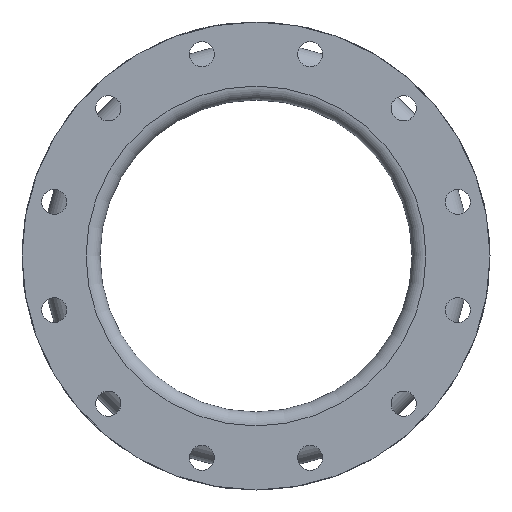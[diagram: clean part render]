
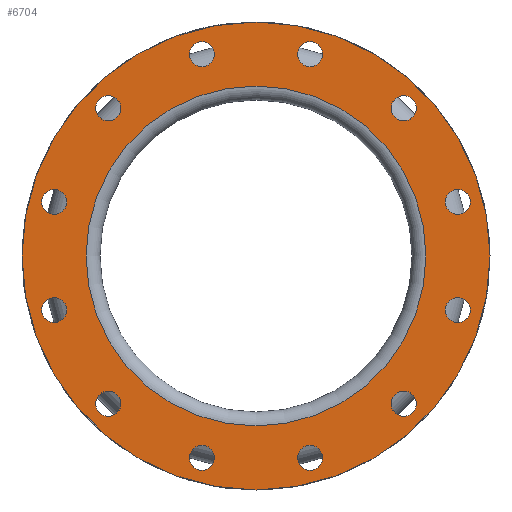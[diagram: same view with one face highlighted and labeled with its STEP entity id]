
A CAD part, left-side view. The second image highlights one B-rep face of the part: STEP entity #6704.
In plain terms, the highlighted planar face has unit normal (-1, 0, 0).
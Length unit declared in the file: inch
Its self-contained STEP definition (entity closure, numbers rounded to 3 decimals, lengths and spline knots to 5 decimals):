
#108=FACE_BOUND('',#1124,.T.);
#109=FACE_BOUND('',#1125,.T.);
#110=FACE_BOUND('',#1126,.T.);
#111=FACE_BOUND('',#1127,.T.);
#112=FACE_BOUND('',#1128,.T.);
#113=FACE_BOUND('',#1129,.T.);
#114=FACE_BOUND('',#1130,.T.);
#115=FACE_BOUND('',#1131,.T.);
#116=FACE_BOUND('',#1132,.T.);
#117=FACE_BOUND('',#1133,.T.);
#118=FACE_BOUND('',#1134,.T.);
#119=FACE_BOUND('',#1135,.T.);
#120=FACE_BOUND('',#1136,.T.);
#677=FACE_OUTER_BOUND('',#1123,.T.);
#1123=EDGE_LOOP('',(#5132));
#1124=EDGE_LOOP('',(#5133));
#1125=EDGE_LOOP('',(#5134));
#1126=EDGE_LOOP('',(#5135));
#1127=EDGE_LOOP('',(#5136));
#1128=EDGE_LOOP('',(#5137));
#1129=EDGE_LOOP('',(#5138));
#1130=EDGE_LOOP('',(#5139));
#1131=EDGE_LOOP('',(#5140));
#1132=EDGE_LOOP('',(#5141));
#1133=EDGE_LOOP('',(#5142));
#1134=EDGE_LOOP('',(#5143));
#1135=EDGE_LOOP('',(#5144));
#1136=EDGE_LOOP('',(#5145));
#2362=CIRCLE('',#7336,0.5625);
#2364=CIRCLE('',#7339,0.5625);
#2366=CIRCLE('',#7342,0.5625);
#2368=CIRCLE('',#7345,0.5625);
#2370=CIRCLE('',#7348,0.5625);
#2372=CIRCLE('',#7351,0.5625);
#2374=CIRCLE('',#7354,0.5625);
#2376=CIRCLE('',#7357,0.5625);
#2378=CIRCLE('',#7360,0.5625);
#2380=CIRCLE('',#7363,0.5625);
#2382=CIRCLE('',#7366,0.5625);
#2384=CIRCLE('',#7369,0.5625);
#2392=CIRCLE('',#7384,7.625);
#2393=CIRCLE('',#7386,10.5);
#2975=VERTEX_POINT('',#10994);
#2977=VERTEX_POINT('',#10999);
#2979=VERTEX_POINT('',#11004);
#2981=VERTEX_POINT('',#11009);
#2983=VERTEX_POINT('',#11014);
#2985=VERTEX_POINT('',#11019);
#2987=VERTEX_POINT('',#11024);
#2989=VERTEX_POINT('',#11029);
#2991=VERTEX_POINT('',#11034);
#2993=VERTEX_POINT('',#11039);
#2995=VERTEX_POINT('',#11044);
#2997=VERTEX_POINT('',#11049);
#3005=VERTEX_POINT('',#11072);
#3006=VERTEX_POINT('',#11075);
#3756=EDGE_CURVE('',#2975,#2975,#2362,.T.);
#3758=EDGE_CURVE('',#2977,#2977,#2364,.T.);
#3760=EDGE_CURVE('',#2979,#2979,#2366,.T.);
#3762=EDGE_CURVE('',#2981,#2981,#2368,.T.);
#3764=EDGE_CURVE('',#2983,#2983,#2370,.T.);
#3766=EDGE_CURVE('',#2985,#2985,#2372,.T.);
#3768=EDGE_CURVE('',#2987,#2987,#2374,.T.);
#3770=EDGE_CURVE('',#2989,#2989,#2376,.T.);
#3772=EDGE_CURVE('',#2991,#2991,#2378,.T.);
#3774=EDGE_CURVE('',#2993,#2993,#2380,.T.);
#3776=EDGE_CURVE('',#2995,#2995,#2382,.T.);
#3778=EDGE_CURVE('',#2997,#2997,#2384,.T.);
#3786=EDGE_CURVE('',#3005,#3005,#2392,.T.);
#3787=EDGE_CURVE('',#3006,#3006,#2393,.T.);
#5132=ORIENTED_EDGE('',*,*,#3787,.F.);
#5133=ORIENTED_EDGE('',*,*,#3786,.T.);
#5134=ORIENTED_EDGE('',*,*,#3756,.T.);
#5135=ORIENTED_EDGE('',*,*,#3758,.T.);
#5136=ORIENTED_EDGE('',*,*,#3760,.T.);
#5137=ORIENTED_EDGE('',*,*,#3762,.T.);
#5138=ORIENTED_EDGE('',*,*,#3764,.T.);
#5139=ORIENTED_EDGE('',*,*,#3766,.T.);
#5140=ORIENTED_EDGE('',*,*,#3768,.T.);
#5141=ORIENTED_EDGE('',*,*,#3770,.T.);
#5142=ORIENTED_EDGE('',*,*,#3772,.T.);
#5143=ORIENTED_EDGE('',*,*,#3774,.T.);
#5144=ORIENTED_EDGE('',*,*,#3776,.T.);
#5145=ORIENTED_EDGE('',*,*,#3778,.T.);
#6098=PLANE('',#7385);
#6704=ADVANCED_FACE('',(#677,#108,#109,#110,#111,#112,#113,#114,#115,#116,
#117,#118,#119,#120),#6098,.T.);
#7336=AXIS2_PLACEMENT_3D('',#10995,#8905,#8906);
#7339=AXIS2_PLACEMENT_3D('',#11000,#8911,#8912);
#7342=AXIS2_PLACEMENT_3D('',#11005,#8917,#8918);
#7345=AXIS2_PLACEMENT_3D('',#11010,#8923,#8924);
#7348=AXIS2_PLACEMENT_3D('',#11015,#8929,#8930);
#7351=AXIS2_PLACEMENT_3D('',#11020,#8935,#8936);
#7354=AXIS2_PLACEMENT_3D('',#11025,#8941,#8942);
#7357=AXIS2_PLACEMENT_3D('',#11030,#8947,#8948);
#7360=AXIS2_PLACEMENT_3D('',#11035,#8953,#8954);
#7363=AXIS2_PLACEMENT_3D('',#11040,#8959,#8960);
#7366=AXIS2_PLACEMENT_3D('',#11045,#8965,#8966);
#7369=AXIS2_PLACEMENT_3D('',#11050,#8971,#8972);
#7384=AXIS2_PLACEMENT_3D('',#11073,#9001,#9002);
#7385=AXIS2_PLACEMENT_3D('',#11074,#9003,#9004);
#7386=AXIS2_PLACEMENT_3D('',#11076,#9005,#9006);
#8905=DIRECTION('center_axis',(1.,0.,0.));
#8906=DIRECTION('ref_axis',(0.,-0.5,-0.866));
#8911=DIRECTION('center_axis',(1.,0.,0.));
#8912=DIRECTION('ref_axis',(0.,-0.866,-0.5));
#8917=DIRECTION('center_axis',(1.,0.,0.));
#8918=DIRECTION('ref_axis',(0.,-1.,0.));
#8923=DIRECTION('center_axis',(1.,0.,0.));
#8924=DIRECTION('ref_axis',(0.,-0.866,0.5));
#8929=DIRECTION('center_axis',(1.,0.,0.));
#8930=DIRECTION('ref_axis',(0.,-0.5,0.866));
#8935=DIRECTION('center_axis',(1.,0.,0.));
#8936=DIRECTION('ref_axis',(0.,0.,1.));
#8941=DIRECTION('center_axis',(1.,0.,0.));
#8942=DIRECTION('ref_axis',(0.,0.5,0.866));
#8947=DIRECTION('center_axis',(1.,0.,0.));
#8948=DIRECTION('ref_axis',(0.,0.866,0.5));
#8953=DIRECTION('center_axis',(1.,0.,0.));
#8954=DIRECTION('ref_axis',(0.,1.,0.));
#8959=DIRECTION('center_axis',(1.,0.,0.));
#8960=DIRECTION('ref_axis',(0.,0.866,-0.5));
#8965=DIRECTION('center_axis',(1.,0.,0.));
#8966=DIRECTION('ref_axis',(0.,0.5,-0.866));
#8971=DIRECTION('center_axis',(1.,0.,0.));
#8972=DIRECTION('ref_axis',(0.,0.,-1.));
#9001=DIRECTION('center_axis',(1.,0.,0.));
#9002=DIRECTION('ref_axis',(0.,0.,-1.));
#9003=DIRECTION('center_axis',(-1.,0.,0.));
#9004=DIRECTION('ref_axis',(0.,0.,1.));
#9005=DIRECTION('center_axis',(1.,0.,0.));
#9006=DIRECTION('ref_axis',(0.,0.,-1.));
#10994=CARTESIAN_POINT('',(-4.,6.91038,-6.14199));
#10995=CARTESIAN_POINT('Origin',(-4.,6.62913,-6.62913));
#10999=CARTESIAN_POINT('',(-4.,2.91357,-8.7743));
#11000=CARTESIAN_POINT('Origin',(-4.,2.42643,-9.05555));
#11004=CARTESIAN_POINT('',(-4.,-1.86393,-9.05555));
#11005=CARTESIAN_POINT('Origin',(-4.,-2.42643,-9.05555));
#11009=CARTESIAN_POINT('',(-4.,-6.14199,-6.91038));
#11010=CARTESIAN_POINT('Origin',(-4.,-6.62913,-6.62913));
#11014=CARTESIAN_POINT('',(-4.,-8.7743,-2.91357));
#11015=CARTESIAN_POINT('Origin',(-4.,-9.05555,-2.42643));
#11019=CARTESIAN_POINT('',(-4.,-9.05555,1.86393));
#11020=CARTESIAN_POINT('Origin',(-4.,-9.05555,2.42643));
#11024=CARTESIAN_POINT('',(-4.,-6.91038,6.14199));
#11025=CARTESIAN_POINT('Origin',(-4.,-6.62913,6.62913));
#11029=CARTESIAN_POINT('',(-4.,-2.91357,8.7743));
#11030=CARTESIAN_POINT('Origin',(-4.,-2.42643,9.05555));
#11034=CARTESIAN_POINT('',(-4.,1.86393,9.05555));
#11035=CARTESIAN_POINT('Origin',(-4.,2.42643,9.05555));
#11039=CARTESIAN_POINT('',(-4.,6.14199,6.91038));
#11040=CARTESIAN_POINT('Origin',(-4.,6.62913,6.62913));
#11044=CARTESIAN_POINT('',(-4.,8.7743,2.91357));
#11045=CARTESIAN_POINT('Origin',(-4.,9.05555,2.42643));
#11049=CARTESIAN_POINT('',(-4.,9.05555,-1.86393));
#11050=CARTESIAN_POINT('Origin',(-4.,9.05555,-2.42643));
#11072=CARTESIAN_POINT('',(-4.,7.625,0.));
#11073=CARTESIAN_POINT('Origin',(-4.,0.,0.));
#11074=CARTESIAN_POINT('Origin',(-4.,10.5,0.));
#11075=CARTESIAN_POINT('',(-4.,10.5,0.));
#11076=CARTESIAN_POINT('Origin',(-4.,0.,0.));
